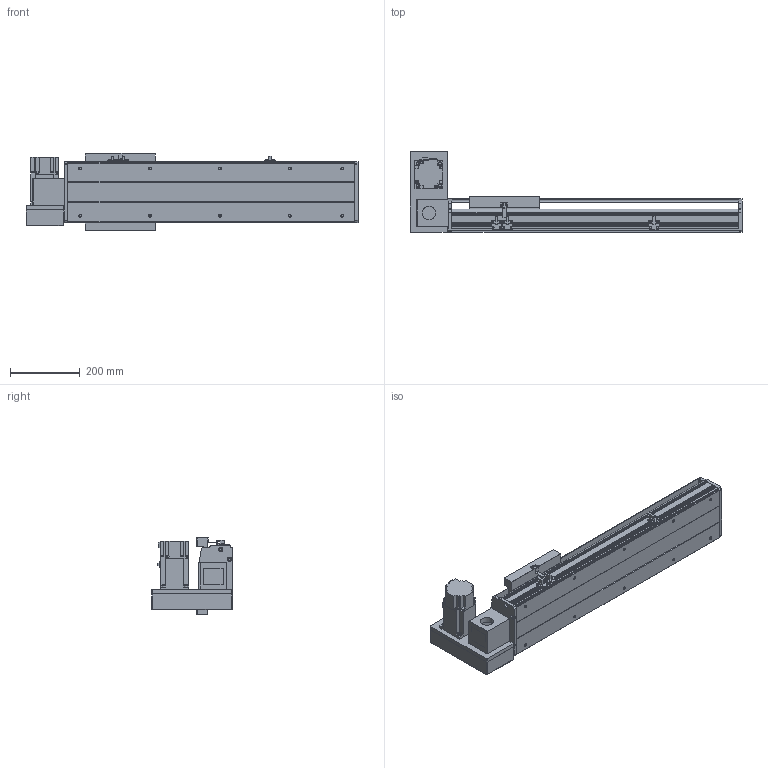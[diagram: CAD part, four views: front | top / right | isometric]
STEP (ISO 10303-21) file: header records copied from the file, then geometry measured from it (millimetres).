
FILE_DESCRIPTION(/* description */ ('STEP AP214'),/* implementation_level */ '2;1');
FILE_NAME(/* name */ 'PBS200-P40-S450-LU-T75-C1-N(0)',/* time_stamp */ '2022-06-11T08:58:57+02:00',/* author */ ('License CC BY-ND 4.0'),/* organization */ ('CADENAS'),/* preprocessor_version */ 'ST-DEVELOPER v18.102',/* originating_system */ 'PARTsolutions',/* authorisation */ ' ');
FILE_SCHEMA (('AUTOMOTIVE_DESIGN {1 0 10303 214 3 1 1}'));
Length unit declared in the file: millimetre
Products named in the file (7): PBS200-P40-S450-LU-T75-C1-N(0); PBS200_sensor; PBS200_plant; PBS200_sliser; T75-p1; PBS200T-LU_motors; PBS200-S450()_body
Assembly tree (8 placements, depth 2):
  PBS200-P40-S450-LU-T75-C1-N(0)
    PBS200_sensor  x3
    PBS200_plant
    PBS200_sliser
    T75-p1
    PBS200T-LU_motors
    PBS200-S450()_body
Bounding box: 950 x 231 x 221 mm (x, y, z)
Volume: 7802965.9 mm3; surface area: 1277988.9 mm2
Topology: 8 solids, 8 shells, 902 faces, 2344 edges, 1530 vertices
Faces by surface type: plane 568, cylinder 292, cone 42
Full cylindrical faces by diameter (mm): 2.459 x6, 3.242 x4, 4.5 x6, 4.917 x4, 5 x6, 6 x7, 6.6 x8, 6.647 x14, 8 x6, 10 x4, 12 x8, 38 x2, 40 x1, 70 x1
Entity records: 24221 total; most frequent: DIRECTION 4255, CARTESIAN_POINT 4138, ORIENTED_EDGE 3946, EDGE_CURVE 1973, AXIS2_PLACEMENT_3D 1471, VERTEX_POINT 1354, LINE 1313, VECTOR 1313
